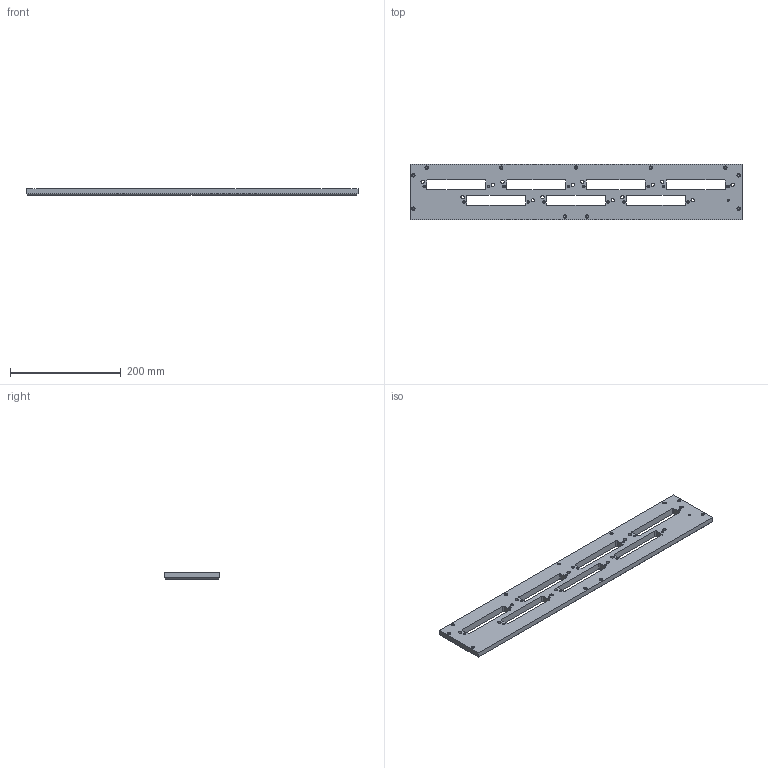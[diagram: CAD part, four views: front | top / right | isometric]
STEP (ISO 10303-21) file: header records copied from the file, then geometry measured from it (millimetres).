
FILE_DESCRIPTION(('STEP AP203'), '1');
FILE_NAME('ﾒﾏﾏﾔ1801.01.07.02.001-1 - ﾎ魵瑙韃', '', ('UNSPECIFIED'), ('UNSPECIFIED'), 'C3D Converter', 'C3D Toolkit', '');
FILE_SCHEMA(('CONFIG_CONTROL_DESIGN'));
Length unit declared in the file: millimetre
Products named in the file (1): ТППФ1801.01.07.02.001-1
Bounding box: 600 x 100 x 12.2 mm (x, y, z)
Volume: 554406.9 mm3; surface area: 133772.2 mm2
Topology: 1 solids, 1 shells, 158 faces, 412 edges, 256 vertices
Faces by surface type: cylinder 68, cone 52, plane 38
Full cylindrical faces by diameter (mm): 2.459 x1, 3.242 x14, 4.134 x11, 6 x14
Entity records: 5524 total; most frequent: DIRECTION 774, CARTESIAN_POINT 683, ORIENTED_EDGE 588, AXIS2_PLACEMENT_3D 321, EDGE_CURVE 294, EDGE_LOOP 292, VERTEX_POINT 230, CIRCLE 162
